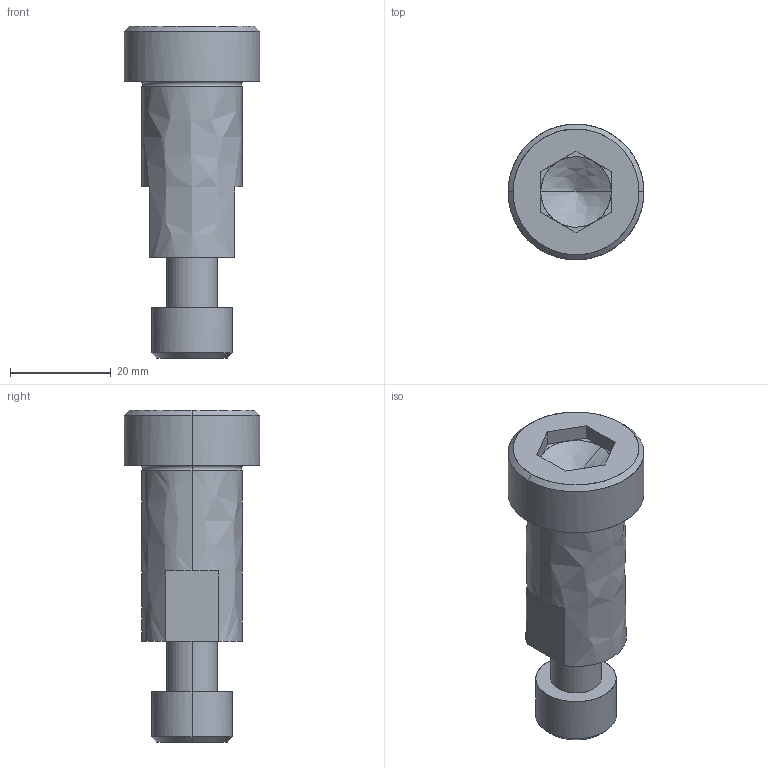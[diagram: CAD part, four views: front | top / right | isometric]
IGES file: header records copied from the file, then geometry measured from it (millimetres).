
Global section: file name: E:\UnigraphicsGraphicData\MISUMI_PRESS-PARTS\IGES\3d_sbt20-35_05064_r00.igs; native system: NX V5.0; preprocessor: UGS NX IGES V5.0; author: MISUMI; date: 20110105.162440; units: millimetre
Bounding box: 27 x 27 x 66 mm (x, y, z)
Surface area: 7007.7 mm2 (no closed solid volume)
Topology: 0 solids, 0 shells, 56 faces, 318 edges, 314 vertices
Faces by surface type: bspline 56
